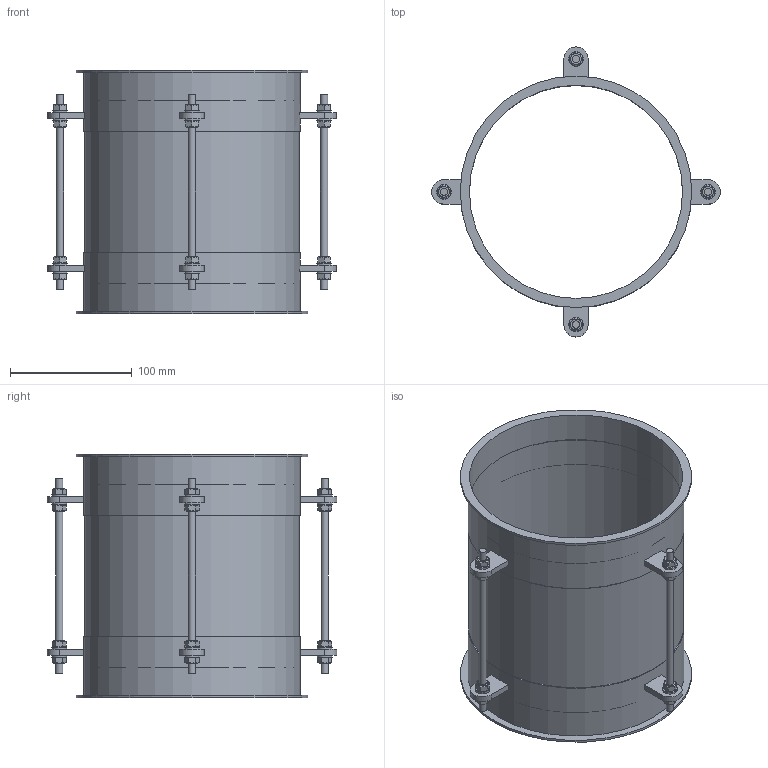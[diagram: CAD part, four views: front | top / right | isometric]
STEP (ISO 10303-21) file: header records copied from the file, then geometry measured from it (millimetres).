
FILE_DESCRIPTION((''),'2;1');
FILE_NAME('U:\Wolfgang\Marcel-3D\fertig\Kapitel 4\1711042.stp','2011-04-21T08:28:49',('TK1'),(''),'Autodesk Inventor 2010','Autodesk Inventor 2010','');
FILE_SCHEMA(('AUTOMOTIVE_DESIGN { 1 0 10303 214 1 1 1 1 }'));
Length unit declared in the file: millimetre
Products named in the file (6): 1711042; 1711042-1; 1711042-2; 1011042-3; ISO 4032 M6; ISO 7089 6 - 140 HV
Assembly tree (39 placements, depth 2):
  1711042
    1711042-1  x2
    1711042-2
    1011042-3  x4
    ISO 4032 M6  x16
    ISO 7089 6 - 140 HV  x16
Bounding box: 236.87 x 238 x 200 mm (x, y, z)
Volume: 185005.8 mm3; surface area: 329545.4 mm2
Topology: 45 solids, 45 shells, 362 faces, 758 edges, 490 vertices
Faces by surface type: plane 218, cylinder 64, cone 64, bspline 16
Full cylindrical faces by diameter (mm): 6 x12, 6.4 x16, 12 x16, 175 x3, 176.5 x3, 178 x2, 190 x2
Entity records: 1989 total; most frequent: DIRECTION 346, CARTESIAN_POINT 332, ORIENTED_EDGE 212, AXIS2_PLACEMENT_3D 148, EDGE_CURVE 106, EDGE_LOOP 100, VERTEX_POINT 80, FACE_OUTER_BOUND 60
